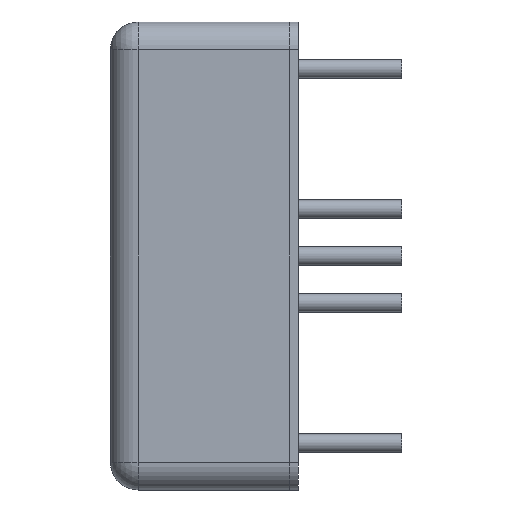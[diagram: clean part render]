
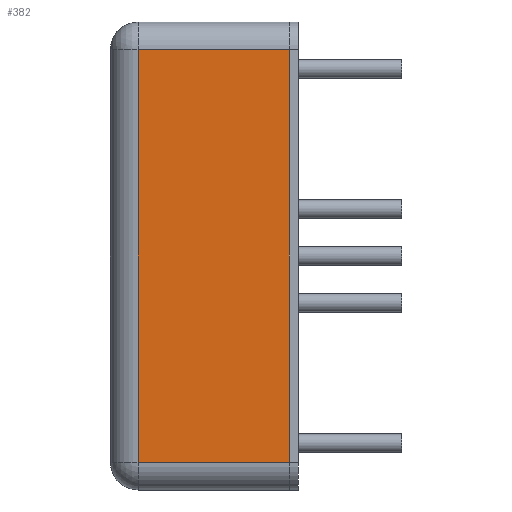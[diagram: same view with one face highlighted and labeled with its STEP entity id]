
A CAD part, left-side view. The second image highlights one B-rep face of the part: STEP entity #382.
In plain terms, the highlighted planar face has unit normal (-1, 0, 0).
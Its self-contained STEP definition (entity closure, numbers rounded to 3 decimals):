
#359 = VERTEX_POINT ( 'NONE', #1951 ) ;
#360 = ORIENTED_EDGE ( 'NONE', *, *, #361, .T. ) ;
#361 = EDGE_CURVE ( 'NONE', #359, #362, #1950, .T. ) ;
#362 = VERTEX_POINT ( 'NONE', #2003 ) ;
#363 = ORIENTED_EDGE ( 'NONE', *, *, #364, .T. ) ;
#364 = EDGE_CURVE ( 'NONE', #362, #365, #2002, .T. ) ;
#365 = VERTEX_POINT ( 'NONE', #1998 ) ;
#366 = ORIENTED_EDGE ( 'NONE', *, *, #367, .T. ) ;
#367 = EDGE_CURVE ( 'NONE', #365, #441, #1997, .T. ) ;
#381 = EDGE_LOOP ( 'NONE', ( #439, #360, #363, #366 ) ) ;
#382 = ADVANCED_FACE ( 'NONE', ( #2027 ), #2031, .F. ) ;
#439 = ORIENTED_EDGE ( 'NONE', *, *, #440, .T. ) ;
#440 = EDGE_CURVE ( 'NONE', #441, #359, #2149, .T. ) ;
#441 = VERTEX_POINT ( 'NONE', #2145 ) ;
#1947 = DIRECTION ( 'NONE',  ( 0., -1., 0. ) ) ;
#1948 = VECTOR ( 'NONE', #1947, 1000. ) ;
#1949 = CARTESIAN_POINT ( 'NONE',  ( -25.4, 9.7, -11.2 ) ) ;
#1950 = LINE ( 'NONE', #1949, #1948 ) ;
#1951 = CARTESIAN_POINT ( 'NONE',  ( -25.4, 8.2, -11.2 ) ) ;
#1994 = DIRECTION ( 'NONE',  ( 0., 1., 0. ) ) ;
#1995 = VECTOR ( 'NONE', #1994, 1000. ) ;
#1996 = CARTESIAN_POINT ( 'NONE',  ( -25.4, 9.7, 11.2 ) ) ;
#1997 = LINE ( 'NONE', #1996, #1995 ) ;
#1998 = CARTESIAN_POINT ( 'NONE',  ( -25.4, 0., 11.2 ) ) ;
#1999 = DIRECTION ( 'NONE',  ( 0., 0., 1. ) ) ;
#2000 = VECTOR ( 'NONE', #1999, 1000. ) ;
#2001 = CARTESIAN_POINT ( 'NONE',  ( -25.4, 0., -12.7 ) ) ;
#2002 = LINE ( 'NONE', #2001, #2000 ) ;
#2003 = CARTESIAN_POINT ( 'NONE',  ( -25.4, 0., -11.2 ) ) ;
#2021 = DIRECTION ( 'NONE',  ( 0., 0., -1. ) ) ;
#2022 = DIRECTION ( 'NONE',  ( 1., 0., 0. ) ) ;
#2023 = CARTESIAN_POINT ( 'NONE',  ( -25.4, 9.7, -12.7 ) ) ;
#2026 = AXIS2_PLACEMENT_3D ( 'NONE', #2023, #2022, #2021 ) ;
#2027 = FACE_OUTER_BOUND ( 'NONE', #381, .T. ) ;
#2031 = PLANE ( 'NONE',  #2026 ) ;
#2145 = CARTESIAN_POINT ( 'NONE',  ( -25.4, 8.2, 11.2 ) ) ;
#2146 = DIRECTION ( 'NONE',  ( 0., 0., -1. ) ) ;
#2147 = VECTOR ( 'NONE', #2146, 1000. ) ;
#2148 = CARTESIAN_POINT ( 'NONE',  ( -25.4, 8.2, -12.7 ) ) ;
#2149 = LINE ( 'NONE', #2148, #2147 ) ;
